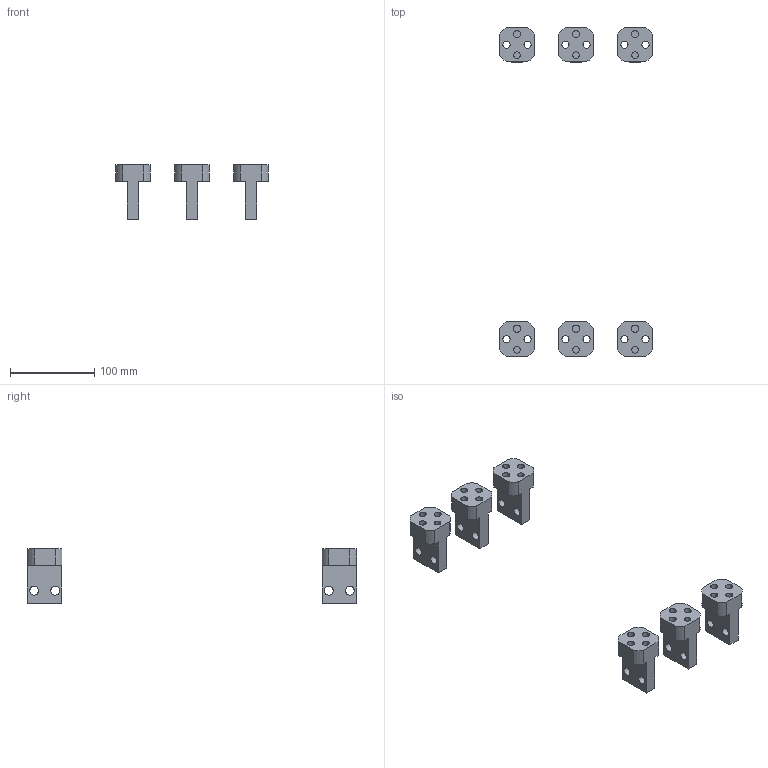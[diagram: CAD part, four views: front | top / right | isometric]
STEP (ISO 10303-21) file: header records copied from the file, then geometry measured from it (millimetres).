
FILE_DESCRIPTION (( 'STEP AP214' ), '1' );
FILE_NAME ('Êîìïëåêò çàäíåãî ïðèñîåäèíåíèÿ OptiMat D800-1600 ñòàöèîíàðíûé âåðòèêàëüíûå.STEP', '2024-02-22T12:11:43', ( '' ), ( '' ), 'SwSTEP 2.0', 'SolidWorks 2018', '' );
FILE_SCHEMA (( 'AUTOMOTIVE_DESIGN' ));
Length unit declared in the file: millimetre
Products named in the file (1): Êîìïëåêò çàäíåãî ïðèñîåäèíåíèÿ OptiMat D800-1600 ñòàöèîíàðíûé âåðòèêàëüíûå
Bounding box: 181 x 390.8 x 65 mm (x, y, z)
Volume: 293098.6 mm3; surface area: 85448.8 mm2
Topology: 6 solids, 6 shells, 168 faces, 432 edges, 288 vertices
Faces by surface type: cylinder 96, plane 72
Entity records: 7211 total; most frequent: DIRECTION 962, CARTESIAN_POINT 889, ORIENTED_EDGE 864, EDGE_CURVE 432, AXIS2_PLACEMENT_3D 361, VERTEX_POINT 288, VECTOR 240, LINE 240
